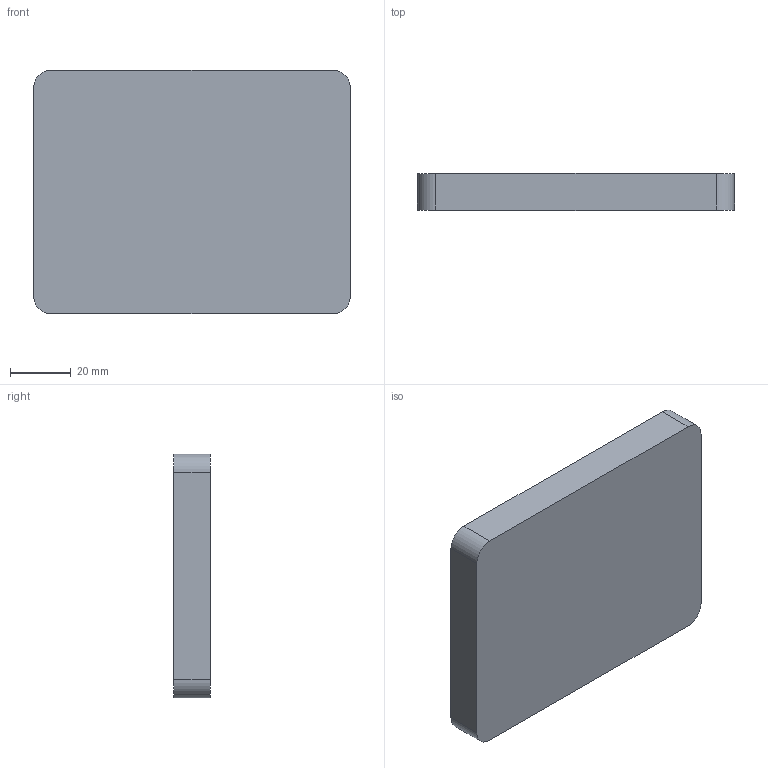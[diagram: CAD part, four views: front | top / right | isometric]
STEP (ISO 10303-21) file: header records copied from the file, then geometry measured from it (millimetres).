
FILE_DESCRIPTION(('Open CASCADE Model'),'2;1');
FILE_NAME('Open CASCADE Shape Model','2026-10-17T16:45:03',('Author'),( 'Open CASCADE'),'Open CASCADE STEP processor 8.0','build123d', 'Unknown');
FILE_SCHEMA(('AUTOMOTIVE_DESIGN { 1 0 10303 214 1 1 1 1 }'));
Length unit declared in the file: millimetre
Products named in the file (2): =>[0:1:1:2]; COMPOUND
Assembly tree (1 placements, depth 2):
  =>[0:1:1:2]
    COMPOUND
Bounding box: 104 x 12 x 80 mm (x, y, z)
Volume: 99469.2 mm3; surface area: 20870.6 mm2
Topology: 1 solids, 1 shells, 10 faces, 24 edges, 16 vertices
Faces by surface type: plane 6, cylinder 4
Entity records: 648 total; most frequent: CARTESIAN_POINT 124, DIRECTION 100, LINE 56, VECTOR 56, ORIENTED_EDGE 48, PCURVE 48, DEFINITIONAL_REPRESENTATION 48, EDGE_CURVE 24
